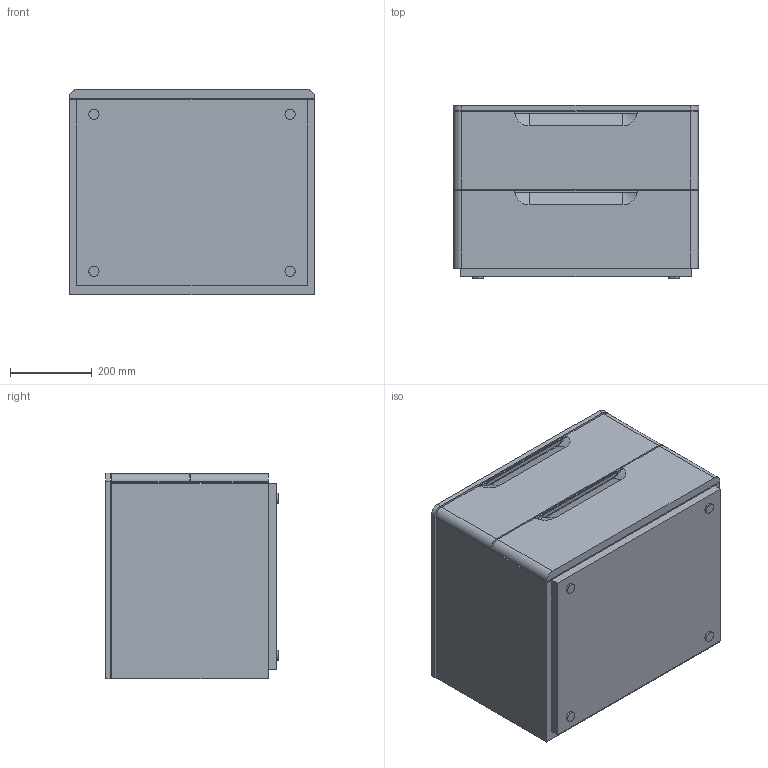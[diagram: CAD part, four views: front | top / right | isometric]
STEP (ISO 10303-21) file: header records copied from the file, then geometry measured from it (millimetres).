
FILE_DESCRIPTION (( 'STEP AP203' ), '1' );
FILE_NAME ('7070_Comodino con top legno.STEP', '2022-08-31T07:44:10', ( '' ), ( '' ), 'SwSTEP 2.0', 'SolidWorks 2021', '' );
FILE_SCHEMA (( 'CONFIG_CONTROL_DESIGN' ));
Length unit declared in the file: millimetre
Products named in the file (6): 7070_Comodino con top legno; Top legno l.600; Comodino; FRONTALE L.600 H.190; UT164 - MANIGLIA - Step 03; FRONTALE+MANIGLIA L.600
Assembly tree (6 placements, depth 3):
  7070_Comodino con top legno
    Comodino
    FRONTALE+MANIGLIA L.600  x2
      FRONTALE L.600 H.190
      UT164 - MANIGLIA - Step 03
    Top legno l.600
Bounding box: 602 x 423.5 x 504 mm (x, y, z)
Volume: 124062387.9 mm3; surface area: 3651056.6 mm2
Topology: 10 solids, 10 shells, 238 faces, 594 edges, 392 vertices
Faces by surface type: plane 114, cylinder 52, bspline 48, cone 24
Entity records: 7148 total; most frequent: CARTESIAN_POINT 3401, ORIENTED_EDGE 672, DIRECTION 596, EDGE_CURVE 336, VERTEX_POINT 222, AXIS2_PLACEMENT_3D 211, LINE 174, VECTOR 174
